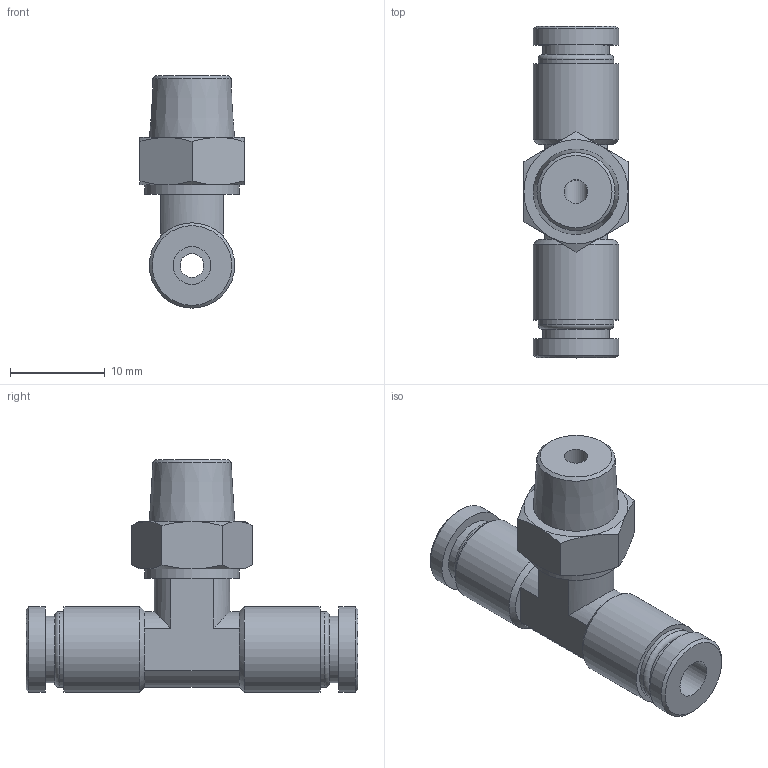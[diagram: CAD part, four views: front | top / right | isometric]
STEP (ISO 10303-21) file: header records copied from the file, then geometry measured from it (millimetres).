
FILE_DESCRIPTION(/* description */ (''),/* implementation_level */ '2;1');
FILE_NAME(/* name */ 'LXH31 0004 B1.stp',/* time_stamp */ '2026-04-22T20:51:55+02:00',/* author */ ('freju'),/* organization */ (''),/* preprocessor_version */ 'ST-DEVELOPER v20.1',/* originating_system */ 'Autodesk Inventor 2026',/* authorisation */ '');
FILE_SCHEMA (('AUTOMOTIVE_DESIGN { 1 0 10303 214 3 1 1 }'));
Length unit declared in the file: millimetre
Products named in the file (1): LXH31 0004 B1
Bounding box: 11 x 35 x 24.5 mm (x, y, z)
Volume: 2641.4 mm3; surface area: 2290.8 mm2
Topology: 1 solids, 1 shells, 62 faces, 133 edges, 81 vertices
Faces by surface type: plane 24, cylinder 18, cone 18, torus 2
Full cylindrical faces by diameter (mm): 2.5 x2, 4 x2, 7 x2, 8 x2, 9 x4, 10 x1
Entity records: 1707 total; most frequent: CARTESIAN_POINT 325, DIRECTION 302, ORIENTED_EDGE 266, EDGE_CURVE 133, AXIS2_PLACEMENT_3D 130, VERTEX_POINT 81, EDGE_LOOP 74, CIRCLE 63
